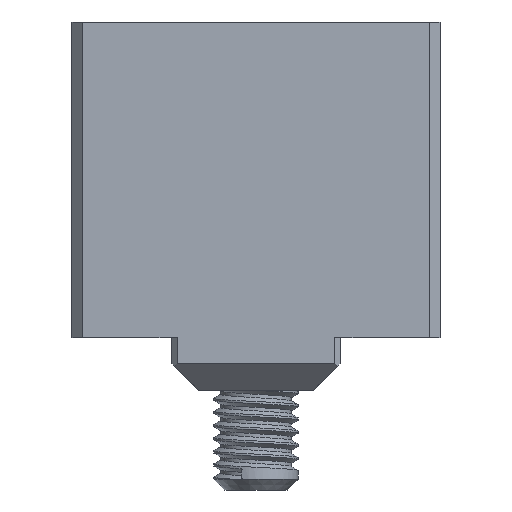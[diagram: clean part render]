
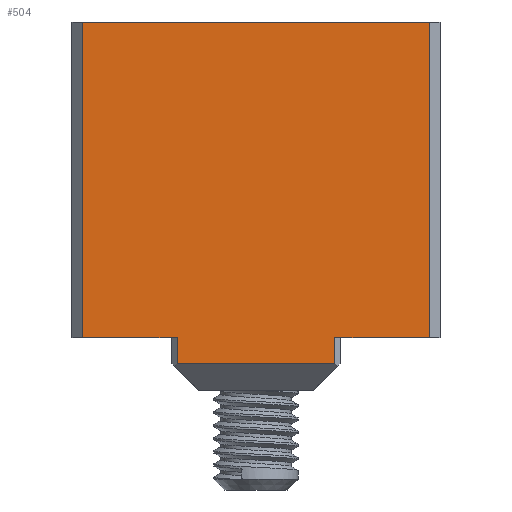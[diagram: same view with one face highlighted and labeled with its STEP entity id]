
A CAD part, front view. The second image highlights one B-rep face of the part: STEP entity #504.
In plain terms, the highlighted planar face has unit normal (0, -1, 0).
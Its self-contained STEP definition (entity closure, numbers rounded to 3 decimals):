
#214=LINE('',#4748,#372);
#224=LINE('',#4770,#382);
#239=LINE('',#4799,#397);
#240=LINE('',#4800,#398);
#241=LINE('',#4802,#399);
#242=LINE('',#4804,#400);
#243=LINE('',#4806,#401);
#244=LINE('',#4808,#402);
#372=VECTOR('',#1902,1.);
#382=VECTOR('',#1914,1.);
#397=VECTOR('',#1935,1.);
#398=VECTOR('',#1936,1.);
#399=VECTOR('',#1937,1.);
#400=VECTOR('',#1938,1.);
#401=VECTOR('',#1939,1.);
#402=VECTOR('',#1940,1.);
#504=ADVANCED_FACE('',(#648),#583,.T.);
#583=PLANE('',#1676);
#648=FACE_OUTER_BOUND('',#736,.T.);
#736=EDGE_LOOP('',(#999,#1000,#1001,#1002,#1003,#1004,#1005,#1006));
#999=ORIENTED_EDGE('',*,*,#1494,.T.);
#1000=ORIENTED_EDGE('',*,*,#1509,.T.);
#1001=ORIENTED_EDGE('',*,*,#1484,.T.);
#1002=ORIENTED_EDGE('',*,*,#1510,.F.);
#1003=ORIENTED_EDGE('',*,*,#1511,.F.);
#1004=ORIENTED_EDGE('',*,*,#1512,.F.);
#1005=ORIENTED_EDGE('',*,*,#1513,.T.);
#1006=ORIENTED_EDGE('',*,*,#1514,.T.);
#1317=VERTEX_POINT('',#4749);
#1318=VERTEX_POINT('',#4750);
#1327=VERTEX_POINT('',#4769);
#1328=VERTEX_POINT('',#4771);
#1339=VERTEX_POINT('',#4801);
#1340=VERTEX_POINT('',#4803);
#1341=VERTEX_POINT('',#4805);
#1342=VERTEX_POINT('',#4807);
#1484=EDGE_CURVE('',#1317,#1318,#214,.T.);
#1494=EDGE_CURVE('',#1328,#1327,#224,.T.);
#1509=EDGE_CURVE('',#1327,#1317,#239,.T.);
#1510=EDGE_CURVE('',#1339,#1318,#240,.T.);
#1511=EDGE_CURVE('',#1340,#1339,#241,.T.);
#1512=EDGE_CURVE('',#1341,#1340,#242,.T.);
#1513=EDGE_CURVE('',#1341,#1342,#243,.T.);
#1514=EDGE_CURVE('',#1342,#1328,#244,.T.);
#1676=AXIS2_PLACEMENT_3D('',#4809,#1941,#1942);
#1902=DIRECTION('',(1.,0.,0.));
#1914=DIRECTION('',(-1.,0.,0.));
#1935=DIRECTION('',(0.,0.,-1.));
#1936=DIRECTION('',(0.,0.,1.));
#1937=DIRECTION('',(-1.,0.,0.));
#1938=DIRECTION('',(0.,0.,-1.));
#1939=DIRECTION('',(1.,0.,0.));
#1940=DIRECTION('',(0.,0.,1.));
#1941=DIRECTION('',(0.,-1.,0.));
#1942=DIRECTION('',(0.,0.,1.));
#4748=CARTESIAN_POINT('',(40.75,-145.,17.));
#4749=CARTESIAN_POINT('',(26.,-145.,17.));
#4750=CARTESIAN_POINT('',(35.,-145.,17.));
#4769=CARTESIAN_POINT('',(26.,-145.,47.));
#4770=CARTESIAN_POINT('',(40.75,-145.,47.));
#4771=CARTESIAN_POINT('',(59.,-145.,47.));
#4799=CARTESIAN_POINT('',(26.,-145.,17.25));
#4800=CARTESIAN_POINT('',(35.,-145.,17.));
#4801=CARTESIAN_POINT('',(35.,-145.,14.5));
#4802=CARTESIAN_POINT('',(37.,-145.,14.5));
#4803=CARTESIAN_POINT('',(50.,-145.,14.5));
#4804=CARTESIAN_POINT('',(50.,-145.,-24.));
#4805=CARTESIAN_POINT('',(50.,-145.,17.));
#4806=CARTESIAN_POINT('',(40.75,-145.,17.));
#4807=CARTESIAN_POINT('',(59.,-145.,17.));
#4808=CARTESIAN_POINT('',(59.,-145.,17.25));
#4809=CARTESIAN_POINT('',(40.75,-145.,17.25));
